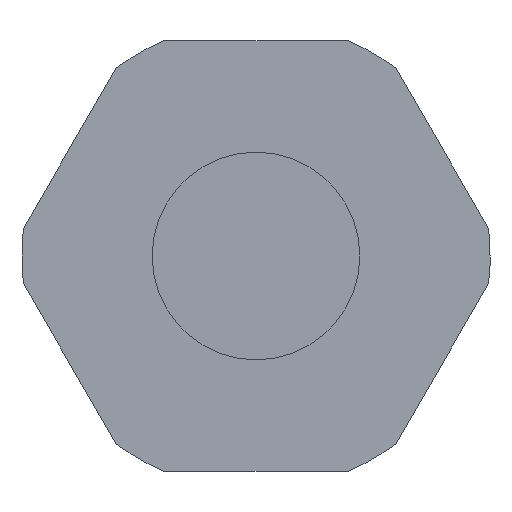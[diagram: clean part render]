
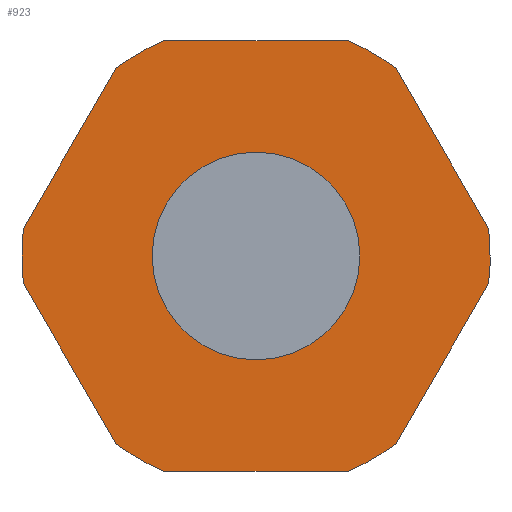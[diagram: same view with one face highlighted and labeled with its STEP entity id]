
A CAD part, front view. The second image highlights one B-rep face of the part: STEP entity #923.
In plain terms, the highlighted planar face has unit normal (0, -1, 0).
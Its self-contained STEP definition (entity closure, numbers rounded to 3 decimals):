
#799=CARTESIAN_POINT('',(4.1,0.0,0.0));
#800=VERTEX_POINT('',#799);
#801=CARTESIAN_POINT('',(0.0,0.0,0.0));
#802=DIRECTION('',(0.0,-1.0,0.0));
#803=DIRECTION('',(1.0,0.0,0.0));
#804=AXIS2_PLACEMENT_3D('',#801,#802,#803);
#805=CIRCLE('',#804,4.1);
#806=EDGE_CURVE('',#800,#800,#805,.T.);
#811=CARTESIAN_POINT('',(6.675,0.0,0.0));
#812=DIRECTION('',(0.0,-1.0,0.0));
#813=DIRECTION('',(0.0,0.0,-1.0));
#814=AXIS2_PLACEMENT_3D('',#811,#812,#813);
#815=PLANE('',#814);
#816=CARTESIAN_POINT('',(3.649,0.0,-8.5));
#817=VERTEX_POINT('',#816);
#818=CARTESIAN_POINT('',(-3.649,0.0,-8.5));
#819=VERTEX_POINT('',#818);
#820=CARTESIAN_POINT('',(3.649,0.0,-8.5));
#821=DIRECTION('',(-1.0,0.0,0.0));
#822=VECTOR('',#821,7.297);
#823=LINE('',#820,#822);
#824=EDGE_CURVE('',#817,#819,#823,.T.);
#825=ORIENTED_EDGE('',*,*,#824,.F.);
#826=CARTESIAN_POINT('',(5.537,0.0,-7.41));
#827=VERTEX_POINT('',#826);
#828=CARTESIAN_POINT('',(0.0,0.0,0.0));
#829=DIRECTION('',(0.0,-1.0,0.0));
#830=DIRECTION('',(1.0,0.0,0.0));
#831=AXIS2_PLACEMENT_3D('',#828,#829,#830);
#832=CIRCLE('',#831,9.25);
#833=EDGE_CURVE('',#817,#827,#832,.T.);
#834=ORIENTED_EDGE('',*,*,#833,.T.);
#835=CARTESIAN_POINT('',(9.186,0.0,-1.09));
#836=VERTEX_POINT('',#835);
#837=CARTESIAN_POINT('',(9.186,0.0,-1.09));
#838=DIRECTION('',(-0.5,0.0,-0.866));
#839=VECTOR('',#838,7.297);
#840=LINE('',#837,#839);
#841=EDGE_CURVE('',#836,#827,#840,.T.);
#842=ORIENTED_EDGE('',*,*,#841,.F.);
#843=CARTESIAN_POINT('',(9.186,0.0,1.09));
#844=VERTEX_POINT('',#843);
#845=CARTESIAN_POINT('',(0.0,0.0,0.0));
#846=DIRECTION('',(0.0,-1.0,0.0));
#847=DIRECTION('',(1.0,0.0,0.0));
#848=AXIS2_PLACEMENT_3D('',#845,#846,#847);
#849=CIRCLE('',#848,9.25);
#850=EDGE_CURVE('',#836,#844,#849,.T.);
#851=ORIENTED_EDGE('',*,*,#850,.T.);
#852=CARTESIAN_POINT('',(5.537,0.0,7.41));
#853=VERTEX_POINT('',#852);
#854=CARTESIAN_POINT('',(5.537,0.0,7.41));
#855=DIRECTION('',(0.5,0.0,-0.866));
#856=VECTOR('',#855,7.297);
#857=LINE('',#854,#856);
#858=EDGE_CURVE('',#853,#844,#857,.T.);
#859=ORIENTED_EDGE('',*,*,#858,.F.);
#860=CARTESIAN_POINT('',(3.649,0.0,8.5));
#861=VERTEX_POINT('',#860);
#862=CARTESIAN_POINT('',(0.0,0.0,0.0));
#863=DIRECTION('',(0.0,-1.0,0.0));
#864=DIRECTION('',(1.0,0.0,0.0));
#865=AXIS2_PLACEMENT_3D('',#862,#863,#864);
#866=CIRCLE('',#865,9.25);
#867=EDGE_CURVE('',#853,#861,#866,.T.);
#868=ORIENTED_EDGE('',*,*,#867,.T.);
#869=CARTESIAN_POINT('',(-3.649,0.0,8.5));
#870=VERTEX_POINT('',#869);
#871=CARTESIAN_POINT('',(-3.649,0.0,8.5));
#872=DIRECTION('',(1.0,0.0,0.0));
#873=VECTOR('',#872,7.297);
#874=LINE('',#871,#873);
#875=EDGE_CURVE('',#870,#861,#874,.T.);
#876=ORIENTED_EDGE('',*,*,#875,.F.);
#877=CARTESIAN_POINT('',(-5.537,0.0,7.41));
#878=VERTEX_POINT('',#877);
#879=CARTESIAN_POINT('',(0.0,0.0,0.0));
#880=DIRECTION('',(0.0,-1.0,0.0));
#881=DIRECTION('',(1.0,0.0,0.0));
#882=AXIS2_PLACEMENT_3D('',#879,#880,#881);
#883=CIRCLE('',#882,9.25);
#884=EDGE_CURVE('',#870,#878,#883,.T.);
#885=ORIENTED_EDGE('',*,*,#884,.T.);
#886=CARTESIAN_POINT('',(-9.186,0.0,1.09));
#887=VERTEX_POINT('',#886);
#888=CARTESIAN_POINT('',(-9.186,0.0,1.09));
#889=DIRECTION('',(0.5,0.0,0.866));
#890=VECTOR('',#889,7.297);
#891=LINE('',#888,#890);
#892=EDGE_CURVE('',#887,#878,#891,.T.);
#893=ORIENTED_EDGE('',*,*,#892,.F.);
#894=CARTESIAN_POINT('',(-9.186,0.0,-1.09));
#895=VERTEX_POINT('',#894);
#896=CARTESIAN_POINT('',(0.0,0.0,0.0));
#897=DIRECTION('',(0.0,-1.0,0.0));
#898=DIRECTION('',(1.0,0.0,0.0));
#899=AXIS2_PLACEMENT_3D('',#896,#897,#898);
#900=CIRCLE('',#899,9.25);
#901=EDGE_CURVE('',#887,#895,#900,.T.);
#902=ORIENTED_EDGE('',*,*,#901,.T.);
#903=CARTESIAN_POINT('',(-5.537,0.0,-7.41));
#904=VERTEX_POINT('',#903);
#905=CARTESIAN_POINT('',(-5.537,0.0,-7.41));
#906=DIRECTION('',(-0.5,0.0,0.866));
#907=VECTOR('',#906,7.297);
#908=LINE('',#905,#907);
#909=EDGE_CURVE('',#904,#895,#908,.T.);
#910=ORIENTED_EDGE('',*,*,#909,.F.);
#911=CARTESIAN_POINT('',(0.0,0.0,0.0));
#912=DIRECTION('',(0.0,-1.0,0.0));
#913=DIRECTION('',(1.0,0.0,0.0));
#914=AXIS2_PLACEMENT_3D('',#911,#912,#913);
#915=CIRCLE('',#914,9.25);
#916=EDGE_CURVE('',#904,#819,#915,.T.);
#917=ORIENTED_EDGE('',*,*,#916,.T.);
#918=EDGE_LOOP('',(#825,#834,#842,#851,#859,#868,#876,#885,#893,#902,#910,#917));
#919=FACE_OUTER_BOUND('',#918,.T.);
#920=ORIENTED_EDGE('',*,*,#806,.F.);
#921=EDGE_LOOP('',(#920));
#922=FACE_BOUND('',#921,.T.);
#923=ADVANCED_FACE('',(#919,#922),#815,.T.);
